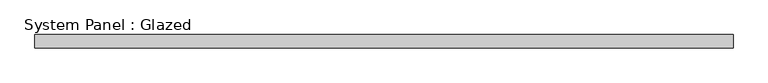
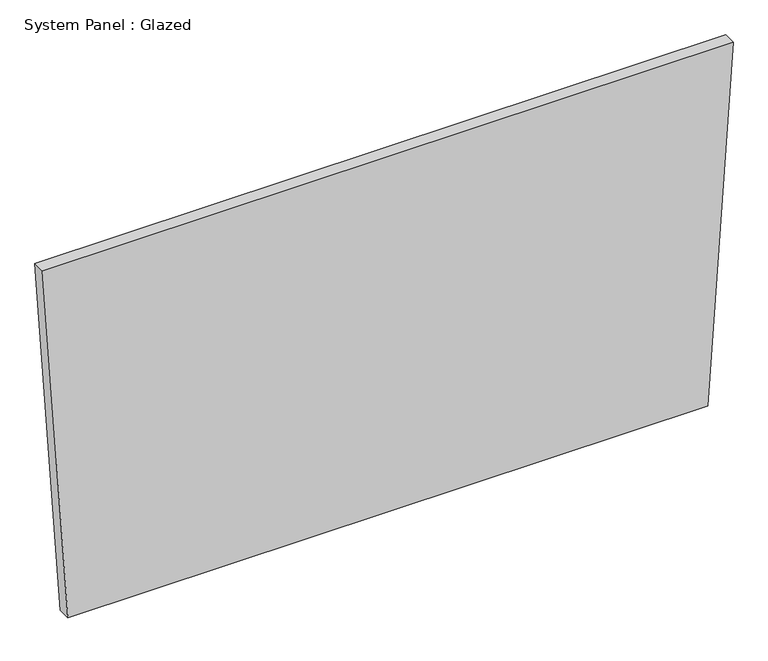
"""IFC4 building model written with IfcOpenShell, lengths in millimetres: plate geometry, System Panel : Glazed."""

from ifc_helpers import new_model, si_unit, frame, origin, place, context, project, spatial, polyline, outline, extrude, source, transform, mapped, element, save


def system_panel_glazed_74486a92(model_context):
    return source(origin(), model_context, "Body", "SweptSolid", [
        extrude(outline(polyline([(0.0, -619.1502692), (0.0004333, 619.1502669), (726.8135376, 668.0772374), (726.81307, -668.0772374), (0.0, -619.1502692)])), frame((0.0, 19.05, 0.0), z_axis=(0.0, 1.0, 0.0), x_axis=(0.0, 0.0, 1.0)), (0.0, 0.0, 1.0), 25.4),
    ])


if __name__ == "__main__":
    model = new_model("IFC4")
    model_context = context("Model", 3, world=origin())
    ifc_project = project(units=[si_unit("LENGTHUNIT", "METRE", prefix="MILLI")], contexts=[model_context])
    site = spatial("IfcSite", under=ifc_project)
    building = spatial("IfcBuilding", under=site)
    placement = place(None, origin())
    system_panel_glazed_shape = system_panel_glazed_74486a92(model_context)
    element("IfcPlate", 1, ObjectType="System Panel : Glazed", at=placement, inside=building, context=model_context, shape_type="MappedRepresentation", body=[
        mapped(system_panel_glazed_shape, transform((0.0, 0.0, 0.0), x_axis=(1.0, 0.0, 0.0), y_axis=(0.0, 1.0, 0.0), z_axis=(0.0, 0.0, 1.0))),
    ])
    save(model, "model.ifc")
